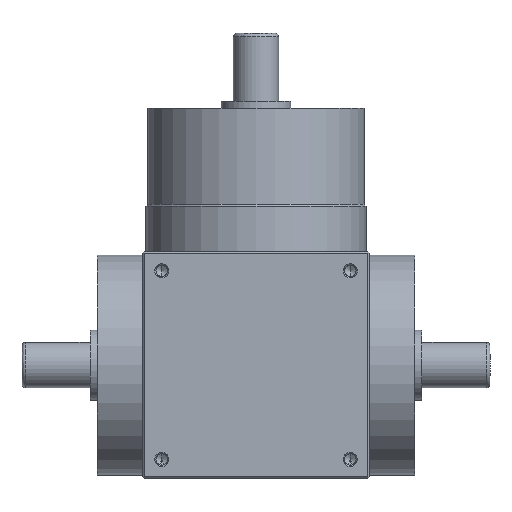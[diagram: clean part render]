
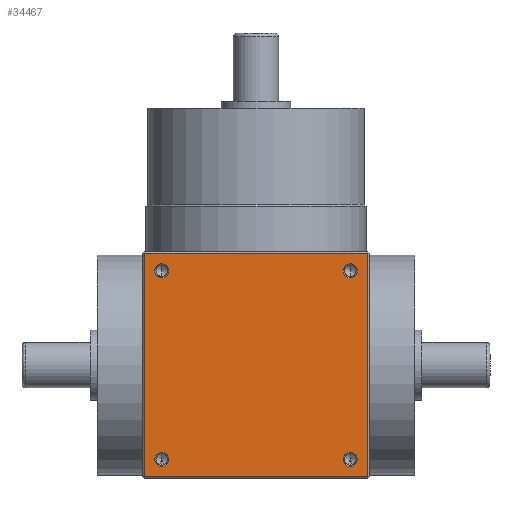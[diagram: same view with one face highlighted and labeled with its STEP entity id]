
A CAD part, front view. The second image highlights one B-rep face of the part: STEP entity #34467.
In plain terms, the highlighted planar face has unit normal (0, -1, 0).
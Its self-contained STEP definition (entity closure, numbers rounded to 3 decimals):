
#106 = ORIENTED_EDGE ( 'NONE', *, *, #415, .F. ) ;
#406 = CARTESIAN_POINT ( 'NONE',  ( 27., -32.5, 3.475 ) ) ;
#415 = EDGE_CURVE ( 'NONE', #37484, #11553, #12719, .T. ) ;
#1344 = FACE_BOUND ( 'NONE', #3706, .T. ) ;
#1742 = VERTEX_POINT ( 'NONE', #21527 ) ;
#1776 = CARTESIAN_POINT ( 'NONE',  ( -27., -32.5, 5.5 ) ) ;
#2152 = ORIENTED_EDGE ( 'NONE', *, *, #16942, .F. ) ;
#2259 = CARTESIAN_POINT ( 'NONE',  ( -32.5, -32.5, 65. ) ) ;
#2996 = CARTESIAN_POINT ( 'NONE',  ( -32.5, -32.5, 64.5 ) ) ;
#3010 = DIRECTION ( 'NONE',  ( 0., -1., 0. ) ) ;
#3534 = CARTESIAN_POINT ( 'NONE',  ( 27., -32.5, 59.5 ) ) ;
#3643 = EDGE_CURVE ( 'NONE', #9320, #38802, #7986, .T. ) ;
#3706 = EDGE_LOOP ( 'NONE', ( #43028, #18585 ) ) ;
#3788 = DIRECTION ( 'NONE',  ( 0., -1., 0. ) ) ;
#3890 = CARTESIAN_POINT ( 'NONE',  ( -27., -32.5, 5.5 ) ) ;
#4736 = VERTEX_POINT ( 'NONE', #16885 ) ;
#5272 = DIRECTION ( 'NONE',  ( 0., 0., -1. ) ) ;
#5597 = CARTESIAN_POINT ( 'NONE',  ( 27., -32.5, 57.475 ) ) ;
#5663 = DIRECTION ( 'NONE',  ( 0., 0., 1. ) ) ;
#5709 = CARTESIAN_POINT ( 'NONE',  ( -32., -32.5, 0.5 ) ) ;
#6793 = VERTEX_POINT ( 'NONE', #39118 ) ;
#7005 = DIRECTION ( 'NONE',  ( 0., 0., -1. ) ) ;
#7327 = CARTESIAN_POINT ( 'NONE',  ( -27., -32.5, 57.475 ) ) ;
#7818 = CARTESIAN_POINT ( 'NONE',  ( 27., -32.5, 7.525 ) ) ;
#7986 = CIRCLE ( 'NONE', #34172, 2.025 ) ;
#8079 = CARTESIAN_POINT ( 'NONE',  ( -27., -32.5, 61.525 ) ) ;
#8477 = FACE_BOUND ( 'NONE', #15220, .T. ) ;
#9320 = VERTEX_POINT ( 'NONE', #15337 ) ;
#9464 = DIRECTION ( 'NONE',  ( 0., 0., 1. ) ) ;
#9601 = FACE_BOUND ( 'NONE', #24016, .T. ) ;
#9655 = AXIS2_PLACEMENT_3D ( 'NONE', #24113, #3010, #27726 ) ;
#10144 = EDGE_CURVE ( 'NONE', #40084, #21695, #40138, .T. ) ;
#11553 = VERTEX_POINT ( 'NONE', #8079 ) ;
#12346 = CARTESIAN_POINT ( 'NONE',  ( 27., -32.5, 59.5 ) ) ;
#12719 = CIRCLE ( 'NONE', #23715, 2.025 ) ;
#13441 = AXIS2_PLACEMENT_3D ( 'NONE', #12346, #37004, #15899 ) ;
#13658 = VERTEX_POINT ( 'NONE', #5709 ) ;
#14004 = DIRECTION ( 'NONE',  ( 0., 0., -1. ) ) ;
#14005 = VERTEX_POINT ( 'NONE', #43329 ) ;
#14325 = EDGE_CURVE ( 'NONE', #4736, #25557, #21752, .T. ) ;
#14423 = LINE ( 'NONE', #31486, #32142 ) ;
#15220 = EDGE_LOOP ( 'NONE', ( #41014, #41506 ) ) ;
#15337 = CARTESIAN_POINT ( 'NONE',  ( -27., -32.5, 3.475 ) ) ;
#15899 = DIRECTION ( 'NONE',  ( 0., 0., -1. ) ) ;
#16044 = CARTESIAN_POINT ( 'NONE',  ( -32., -32.5, 65. ) ) ;
#16320 = EDGE_CURVE ( 'NONE', #25557, #4736, #24356, .T. ) ;
#16354 = LINE ( 'NONE', #16044, #24645 ) ;
#16885 = CARTESIAN_POINT ( 'NONE',  ( 27., -32.5, 61.525 ) ) ;
#16942 = EDGE_CURVE ( 'NONE', #1742, #13658, #14423, .T. ) ;
#17779 = EDGE_CURVE ( 'NONE', #6793, #1742, #30432, .T. ) ;
#18585 = ORIENTED_EDGE ( 'NONE', *, *, #10144, .F. ) ;
#18863 = CIRCLE ( 'NONE', #9655, 2.025 ) ;
#21527 = CARTESIAN_POINT ( 'NONE',  ( 32., -32.5, 0.5 ) ) ;
#21584 = EDGE_CURVE ( 'NONE', #13658, #14005, #16354, .T. ) ;
#21695 = VERTEX_POINT ( 'NONE', #406 ) ;
#21752 = CIRCLE ( 'NONE', #22644, 2.025 ) ;
#21925 = ORIENTED_EDGE ( 'NONE', *, *, #42838, .F. ) ;
#22490 = ORIENTED_EDGE ( 'NONE', *, *, #16320, .F. ) ;
#22527 = CIRCLE ( 'NONE', #41378, 2.025 ) ;
#22644 = AXIS2_PLACEMENT_3D ( 'NONE', #3534, #28250, #7005 ) ;
#22937 = EDGE_CURVE ( 'NONE', #14005, #6793, #33410, .T. ) ;
#23715 = AXIS2_PLACEMENT_3D ( 'NONE', #30197, #30164, #30104 ) ;
#23982 = VECTOR ( 'NONE', #41693, 1000. ) ;
#24016 = EDGE_LOOP ( 'NONE', ( #22490, #36399 ) ) ;
#24113 = CARTESIAN_POINT ( 'NONE',  ( 27., -32.5, 5.5 ) ) ;
#24356 = CIRCLE ( 'NONE', #13441, 2.025 ) ;
#24645 = VECTOR ( 'NONE', #5663, 1000. ) ;
#24776 = EDGE_CURVE ( 'NONE', #38802, #9320, #22527, .T. ) ;
#24907 = CARTESIAN_POINT ( 'NONE',  ( -27., -32.5, 59.5 ) ) ;
#25557 = VERTEX_POINT ( 'NONE', #5597 ) ;
#25777 = AXIS2_PLACEMENT_3D ( 'NONE', #37056, #36900, #36600 ) ;
#26474 = DIRECTION ( 'NONE',  ( 0., -1., 0. ) ) ;
#26948 = ORIENTED_EDGE ( 'NONE', *, *, #22937, .F. ) ;
#27129 = PLANE ( 'NONE',  #27806 ) ;
#27440 = DIRECTION ( 'NONE',  ( 0., 0., -1. ) ) ;
#27726 = DIRECTION ( 'NONE',  ( 0., 0., -1. ) ) ;
#27806 = AXIS2_PLACEMENT_3D ( 'NONE', #2259, #30671, #9464 ) ;
#28205 = EDGE_CURVE ( 'NONE', #21695, #40084, #18863, .T. ) ;
#28250 = DIRECTION ( 'NONE',  ( 0., -1., 0. ) ) ;
#28491 = DIRECTION ( 'NONE',  ( 0., 0., -1. ) ) ;
#29076 = EDGE_LOOP ( 'NONE', ( #26948, #34476, #2152, #31513 ) ) ;
#29483 = CARTESIAN_POINT ( 'NONE',  ( -27., -32.5, 7.525 ) ) ;
#30104 = DIRECTION ( 'NONE',  ( 0., 0., -1. ) ) ;
#30164 = DIRECTION ( 'NONE',  ( 0., -1., 0. ) ) ;
#30197 = CARTESIAN_POINT ( 'NONE',  ( -27., -32.5, 59.5 ) ) ;
#30432 = LINE ( 'NONE', #44766, #37530 ) ;
#30671 = DIRECTION ( 'NONE',  ( 0., 1., 0. ) ) ;
#31486 = CARTESIAN_POINT ( 'NONE',  ( -32.5, -32.5, 0.5 ) ) ;
#31513 = ORIENTED_EDGE ( 'NONE', *, *, #17779, .F. ) ;
#32142 = VECTOR ( 'NONE', #45246, 1000. ) ;
#32235 = CIRCLE ( 'NONE', #36212, 2.025 ) ;
#32404 = DIRECTION ( 'NONE',  ( 0., -1., 0. ) ) ;
#33410 = LINE ( 'NONE', #2996, #23982 ) ;
#34172 = AXIS2_PLACEMENT_3D ( 'NONE', #3890, #32404, #14004 ) ;
#34467 = ADVANCED_FACE ( 'NONE', ( #36638, #9601, #1344, #8477, #44751 ), #27129, .F. ) ;
#34476 = ORIENTED_EDGE ( 'NONE', *, *, #21584, .F. ) ;
#36212 = AXIS2_PLACEMENT_3D ( 'NONE', #24907, #3788, #28491 ) ;
#36399 = ORIENTED_EDGE ( 'NONE', *, *, #14325, .F. ) ;
#36600 = DIRECTION ( 'NONE',  ( 0., 0., -1. ) ) ;
#36638 = FACE_BOUND ( 'NONE', #36671, .T. ) ;
#36671 = EDGE_LOOP ( 'NONE', ( #106, #21925 ) ) ;
#36900 = DIRECTION ( 'NONE',  ( 0., -1., 0. ) ) ;
#37004 = DIRECTION ( 'NONE',  ( 0., -1., 0. ) ) ;
#37056 = CARTESIAN_POINT ( 'NONE',  ( 27., -32.5, 5.5 ) ) ;
#37484 = VERTEX_POINT ( 'NONE', #7327 ) ;
#37530 = VECTOR ( 'NONE', #27440, 1000. ) ;
#38802 = VERTEX_POINT ( 'NONE', #29483 ) ;
#39118 = CARTESIAN_POINT ( 'NONE',  ( 32., -32.5, 64.5 ) ) ;
#40084 = VERTEX_POINT ( 'NONE', #7818 ) ;
#40138 = CIRCLE ( 'NONE', #25777, 2.025 ) ;
#41014 = ORIENTED_EDGE ( 'NONE', *, *, #3643, .F. ) ;
#41378 = AXIS2_PLACEMENT_3D ( 'NONE', #1776, #26474, #5272 ) ;
#41506 = ORIENTED_EDGE ( 'NONE', *, *, #24776, .F. ) ;
#41693 = DIRECTION ( 'NONE',  ( 1., 0., 0. ) ) ;
#42838 = EDGE_CURVE ( 'NONE', #11553, #37484, #32235, .T. ) ;
#43028 = ORIENTED_EDGE ( 'NONE', *, *, #28205, .F. ) ;
#43329 = CARTESIAN_POINT ( 'NONE',  ( -32., -32.5, 64.5 ) ) ;
#44751 = FACE_OUTER_BOUND ( 'NONE', #29076, .T. ) ;
#44766 = CARTESIAN_POINT ( 'NONE',  ( 32., -32.5, 65. ) ) ;
#45246 = DIRECTION ( 'NONE',  ( -1., 0., 0. ) ) ;
